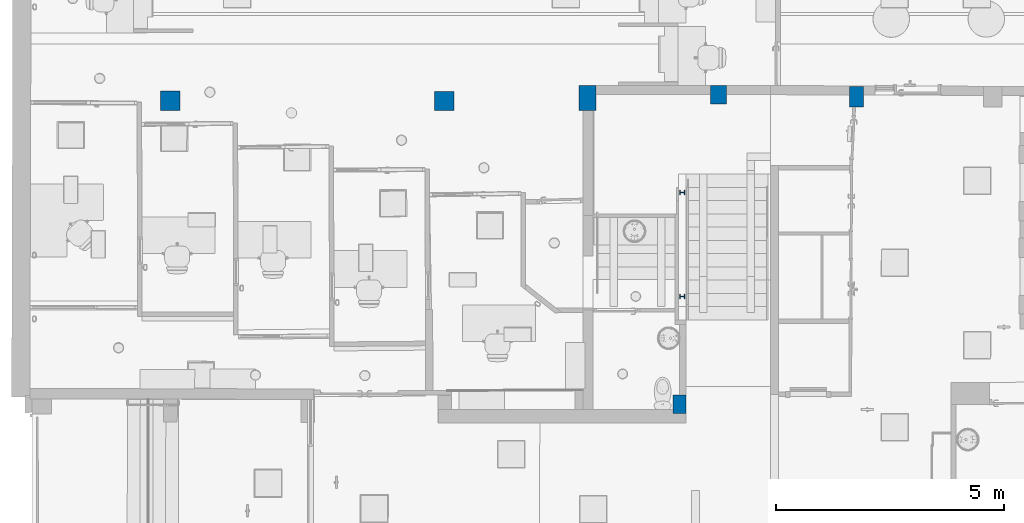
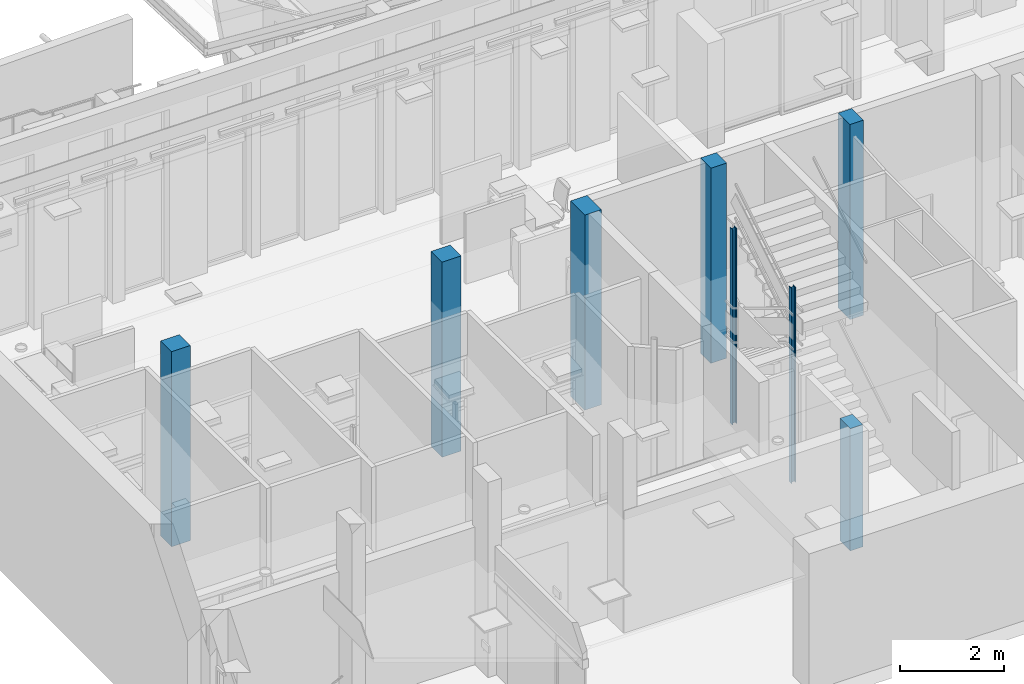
# One storey, part 1 of 128: 8 columns.
"""IFC2X3 building model written with IfcOpenShell, lengths in metres."""

from ifc_helpers import new_model, entity, si_unit, converted_unit, derived_unit, direction, frame, frame_2d, origin, origin_2d_with_axis, place, context, subcontext, project, spatial, rectangle, i_section, extrude, source, transform, mapped, material, type_object, type_shapes, element, save


model = new_model("IFC2X3")

# Units and contexts
model_context = context("Model", 3, precision=1e-05, world=origin(), true_north=direction((6.123031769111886e-17, 1.0)))
body_context = subcontext(model_context, "Body", "Model", "MODEL_VIEW")
ifc_project = project(units=[si_unit("LENGTHUNIT", "METRE"), si_unit("AREAUNIT", "SQUARE_METRE"), converted_unit("PLANEANGLEUNIT", "DEGREE", entity("IfcPlaneAngleMeasure", 0.017453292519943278), si_unit("PLANEANGLEUNIT", "RADIAN"), dimensions=[0, 0, 0, 0, 0, 0, 0]), derived_unit("THERMALTRANSMITTANCEUNIT", [(si_unit("MASSUNIT", "GRAM", prefix="KILO"), 1), (si_unit("THERMODYNAMICTEMPERATUREUNIT", "KELVIN"), -1), (si_unit("TIMEUNIT", "SECOND"), -3)])], contexts=[model_context])

# Site, building, storey
site_placement = place(None, origin())
site = spatial("IfcSite", under=ifc_project, at=site_placement, Name="Default", CompositionType="ELEMENT")
building_placement = place(site_placement, origin())
building = spatial("IfcBuilding", under=site, at=building_placement, CompositionType="ELEMENT")
storey_placement = place(building_placement, origin())
storey = spatial("IfcBuildingStorey", under=building, at=storey_placement, Name="00_RDC CAF", CompositionType="ELEMENT", Elevation=2.4982504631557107e-13)

# Columns
ifc_material_1 = material(Name="STR - Acier")
column_type_1 = type_object("IfcColumnType", Name="Poteau HE-B:HEB100", PredefinedType="COLUMN", material=ifc_material_1)
shared_shape_1 = source(origin(), body_context, "Body", "SweptSolid", [
    extrude(i_section(OverallWidth=0.1, OverallDepth=0.09999999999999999, WebThickness=0.005999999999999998, FlangeThickness=0.01000000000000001, FilletRadius=0.012, at=frame_2d((0.0, 6.938893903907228e-18), x_axis=(1.0, 0.0))), frame((0.0, 0.0, 0.0), z_axis=(0.0, 0.0, 1.0), x_axis=(-1.0, 0.0, 0.0)), (0.0, 0.0, 1.0), 4.578000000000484),
])
type_shapes(column_type_1, [shared_shape_1])
for number, where, z_axis, x_axis in (
    (1, (20.947233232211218, 134.54048300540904, 0.0), (0.0, 0.0, 1.0), (0.0, 1.0, 0.0)),
    (2, (20.947233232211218, 132.26348300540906, 0.0), (0.0, 0.0, 1.0), (0.0, 1.0, 0.0)),
):
    element("IfcColumn", number, at=place(storey_placement, frame(where, z_axis=z_axis, x_axis=x_axis)), inside=storey, type_object=column_type_1, material=ifc_material_1, Name="Poteau HE-B:HEB100", ObjectType="Poteau HE-B:HEB100", context=body_context, shape_type="MappedRepresentation", body=[
        mapped(shared_shape_1, transform((0.0, 0.0, 0.0), scale=1.0)),
    ])
ifc_material_2 = material(Name="STR - Beton")
column_type_2 = type_object("IfcColumnType", Name="Po_Beton_Rectangulaire:Po_Beton_Rectangulaire_420x420mm", PredefinedType="COLUMN", material=ifc_material_2)
shared_shape_2 = source(origin(), body_context, "Body", "SweptSolid", [
    extrude(rectangle(XDim=0.4200000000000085, YDim=0.4199999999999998, at=origin_2d_with_axis()), frame((15.735389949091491, 136.5477483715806, 0.0), z_axis=(0.0, 0.0, 1.0), x_axis=(0.0, -1.0, 0.0)), (0.0, 0.0, 1.0), 4.578000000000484),
])
type_shapes(column_type_2, [shared_shape_2])
column_1_placement = place(storey_placement, origin())
element("IfcColumn", 3, at=column_1_placement, inside=storey, type_object=column_type_2, material=ifc_material_2, Name="Po_Beton_Rectangulaire:Po_Beton_Rectangulaire_420x420mm", ObjectType="Po_Beton_Rectangulaire:Po_Beton_Rectangulaire_420x420mm", context=body_context, shape_type="MappedRepresentation", body=[
    mapped(shared_shape_2, transform((0.0, 0.0, 0.0), scale=1.0)),
])
column_type_3 = type_object("IfcColumnType", Name="Po_Beton_Rectangulaire:Po_Beton_Rectangulaire_420x420mm", PredefinedType="COLUMN", material=ifc_material_2)
shared_shape_3 = source(origin(), body_context, "Body", "SweptSolid", [
    extrude(rectangle(XDim=0.4200000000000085, YDim=0.4199999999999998, at=origin_2d_with_axis()), frame((9.733389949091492, 136.55174837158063, 0.0), z_axis=(0.0, 0.0, 1.0), x_axis=(0.0, -1.0, 0.0)), (0.0, 0.0, 1.0), 4.578000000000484),
])
type_shapes(column_type_3, [shared_shape_3])
column_2_placement = place(storey_placement, origin())
element("IfcColumn", 4, at=column_2_placement, inside=storey, type_object=column_type_3, material=ifc_material_2, Name="Po_Beton_Rectangulaire:Po_Beton_Rectangulaire_420x420mm", ObjectType="Po_Beton_Rectangulaire:Po_Beton_Rectangulaire_420x420mm", context=body_context, shape_type="MappedRepresentation", body=[
    mapped(shared_shape_3, transform((0.0, 0.0, 0.0), scale=1.0)),
])
column_type_4 = type_object("IfcColumnType", Name="Po_Beton_Rectangulaire:Po_Beton_Rectangulaire_350x400mm", PredefinedType="COLUMN", material=ifc_material_2)
shared_shape_4 = source(origin(), body_context, "Body", "SweptSolid", [
    extrude(rectangle(XDim=0.3999999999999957, YDim=0.3499999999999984, at=frame_2d((-2.3192742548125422e-05, 4.3298697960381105e-15), x_axis=(1.0, 0.0))), frame((21.744389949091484, 136.68245087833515, 0.0), z_axis=(0.0, 0.0, 1.0), x_axis=(0.0, -1.0, 0.0)), (0.0, 0.0, 1.0), 4.578000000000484),
])
type_shapes(column_type_4, [shared_shape_4])
column_3_placement = place(storey_placement, origin())
element("IfcColumn", 5, at=column_3_placement, inside=storey, type_object=column_type_4, material=ifc_material_2, Name="Po_Beton_Rectangulaire:Po_Beton_Rectangulaire_350x400mm", ObjectType="Po_Beton_Rectangulaire:Po_Beton_Rectangulaire_350x400mm", context=body_context, shape_type="MappedRepresentation", body=[
    mapped(shared_shape_4, transform((0.0, 0.0, 0.0), scale=1.0)),
])
column_type_5 = type_object("IfcColumnType", Name="Po_Beton_Rectangulaire:Po_Beton_Rectangulaire_550x370mm", PredefinedType="COLUMN", material=ifc_material_2)
shared_shape_5 = source(origin(), body_context, "Body", "SweptSolid", [
    extrude(rectangle(XDim=0.5499999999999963, YDim=0.37000000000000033, at=frame_2d((-0.06786708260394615, -0.029483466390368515), x_axis=(1.0, 0.0))), frame((18.902005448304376, 136.53960698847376, 0.0), z_axis=(0.0, 0.0, 1.0), x_axis=(0.0, -1.0, 0.0)), (0.0, 0.0, 1.0), 4.578000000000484),
])
type_shapes(column_type_5, [shared_shape_5])
column_4_placement = place(storey_placement, origin())
element("IfcColumn", 6, at=column_4_placement, inside=storey, type_object=column_type_5, material=ifc_material_2, Name="Po_Beton_Rectangulaire:Po_Beton_Rectangulaire_550x370mm", ObjectType="Po_Beton_Rectangulaire:Po_Beton_Rectangulaire_550x370mm", context=body_context, shape_type="MappedRepresentation", body=[
    mapped(shared_shape_5, transform((0.0, 0.0, 0.0), scale=1.0)),
])
column_type_6 = type_object("IfcColumnType", Name="Po_Beton_Rectangulaire:Po_Beton_Rectangulaire_450x300mm", PredefinedType="COLUMN", material=ifc_material_2)
shared_shape_6 = source(origin(), body_context, "Body", "SweptSolid", [
    extrude(rectangle(XDim=0.4500000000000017, YDim=0.3000000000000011, at=frame_2d((-0.04671733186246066, 0.013154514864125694), x_axis=(1.0, 0.0))), frame((24.75148783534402, 136.59106773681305, 0.0), z_axis=(0.0, 0.0, 1.0), x_axis=(0.0, -1.0, 0.0)), (0.0, 0.0, 1.0), 4.578000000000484),
])
type_shapes(column_type_6, [shared_shape_6])
column_5_placement = place(storey_placement, origin())
element("IfcColumn", 7, at=column_5_placement, inside=storey, type_object=column_type_6, material=ifc_material_2, Name="Po_Beton_Rectangulaire:Po_Beton_Rectangulaire_450x300mm", ObjectType="Po_Beton_Rectangulaire:Po_Beton_Rectangulaire_450x300mm", context=body_context, shape_type="MappedRepresentation", body=[
    mapped(shared_shape_6, transform((0.0, 0.0, 0.0), scale=1.0)),
])
column_type_7 = type_object("IfcColumnType", Name="Po_Beton_Rectangulaire:Po_Beton_Rectangulaire_400x280mm", PredefinedType="COLUMN", material=ifc_material_2)
shared_shape_7 = source(origin(), body_context, "Body", "SweptSolid", [
    extrude(rectangle(XDim=2.8694000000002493, YDim=0.400000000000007, at=frame_2d((0.0, -0.03810574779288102), x_axis=(1.0, 0.0))), frame((20.748979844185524, 129.8665671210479, 1.4347000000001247), z_axis=(0.9999964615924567, -0.0026602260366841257, 0.0), x_axis=(0.0, 0.0, 1.0)), (0.0, 0.0, 1.0), 0.2799999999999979),
])
type_shapes(column_type_7, [shared_shape_7])
column_6_placement = place(storey_placement, origin())
element("IfcColumn", 8, at=column_6_placement, inside=storey, type_object=column_type_7, material=ifc_material_2, Name="Po_Beton_Rectangulaire:Po_Beton_Rectangulaire_400x280mm", ObjectType="Po_Beton_Rectangulaire:Po_Beton_Rectangulaire_400x280mm", context=body_context, shape_type="MappedRepresentation", body=[
    mapped(shared_shape_7, transform((0.0, 0.0, 0.0), scale=1.0)),
])

save(model, "model.ifc")
